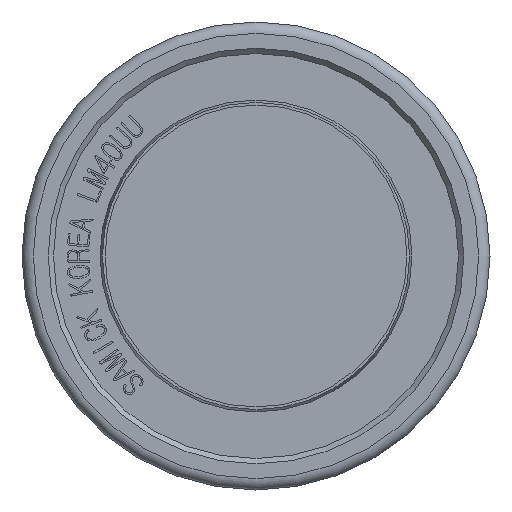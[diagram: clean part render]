
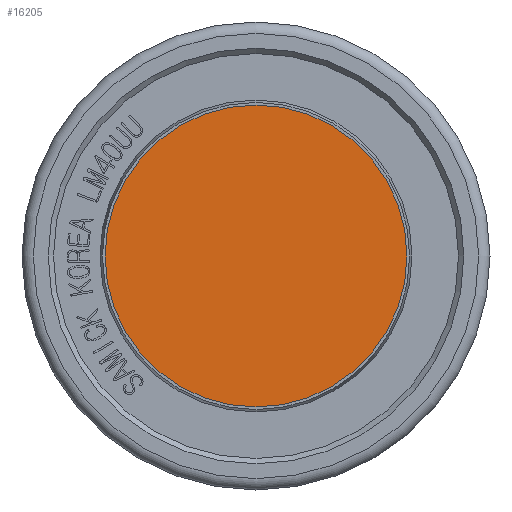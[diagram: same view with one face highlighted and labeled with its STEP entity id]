
A CAD part, front view. The second image highlights one B-rep face of the part: STEP entity #16205.
In plain terms, the highlighted planar face has unit normal (0, -1, 0).
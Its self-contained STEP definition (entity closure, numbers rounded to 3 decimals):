
#41=CIRCLE('',#16492,20.);
#367=PLANE('',#16494);
#1181=FACE_OUTER_BOUND('',#2056,.T.);
#2056=EDGE_LOOP('',(#13920));
#7016=VERTEX_POINT('',#28057);
#9331=EDGE_CURVE('',#7016,#7016,#41,.T.);
#13920=ORIENTED_EDGE('',*,*,#9331,.F.);
#16205=ADVANCED_FACE('',(#1181),#367,.T.);
#16492=AXIS2_PLACEMENT_3D('',#28059,#18165,#18166);
#16494=AXIS2_PLACEMENT_3D('',#28061,#18169,#18170);
#18165=DIRECTION('center_axis',(0.,1.,0.));
#18166=DIRECTION('ref_axis',(1.,0.,0.));
#18169=DIRECTION('center_axis',(0.,-1.,0.));
#18170=DIRECTION('ref_axis',(0.,0.,-1.));
#28057=CARTESIAN_POINT('',(-20.,-65.,0.));
#28059=CARTESIAN_POINT('Origin',(0.,-65.,0.));
#28061=CARTESIAN_POINT('Origin',(0.,-65.,0.));
